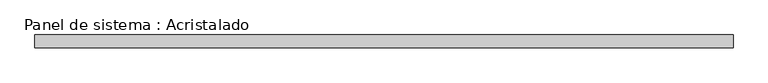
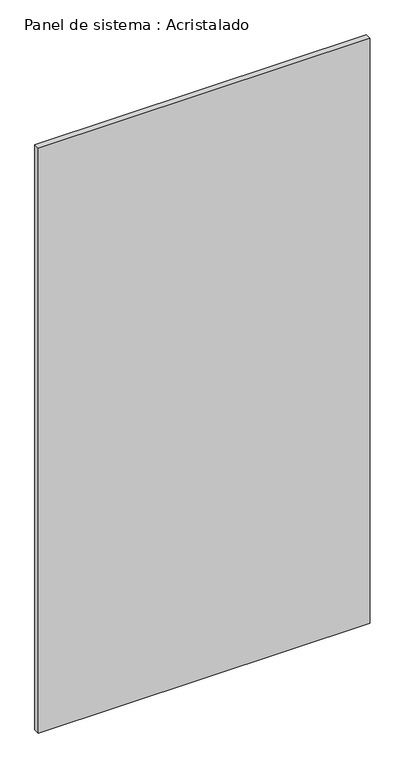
"""IFC4 building model written with IfcOpenShell, lengths in millimetres: plate geometry, Panel de sistema : Acristalado."""

from ifc_helpers import new_model, si_unit, origin, origin_with_axes, place, context, project, spatial, polyline, outline, extrude, source, transform, mapped, element, save


def panel_de_sistema_acristalado_d2322d2b(model_context):
    return source(origin(), model_context, "Body", "SweptSolid", [
        extrude(outline(polyline([(550.0, -10.0), (-550.0, -10.0), (-550.0, 10.0), (550.0, 10.0), (550.0, -10.0)])), origin_with_axes(), (0.0, 0.0, 1.0), 2050.0),
    ])


if __name__ == "__main__":
    model = new_model("IFC4")
    model_context = context("Model", 3, world=origin())
    ifc_project = project(units=[si_unit("LENGTHUNIT", "METRE", prefix="MILLI")], contexts=[model_context])
    site = spatial("IfcSite", under=ifc_project)
    building = spatial("IfcBuilding", under=site)
    placement = place(None, origin())
    panel_de_sistema_acristalado_shape = panel_de_sistema_acristalado_d2322d2b(model_context)
    element("IfcPlate", 1, ObjectType="Panel de sistema : Acristalado", at=placement, inside=building, context=model_context, shape_type="MappedRepresentation", body=[
        mapped(panel_de_sistema_acristalado_shape, transform((0.0, 0.0, 0.0), x_axis=(1.0, 0.0, 0.0), y_axis=(0.0, 1.0, 0.0), z_axis=(0.0, 0.0, 1.0))),
    ])
    save(model, "model.ifc")
